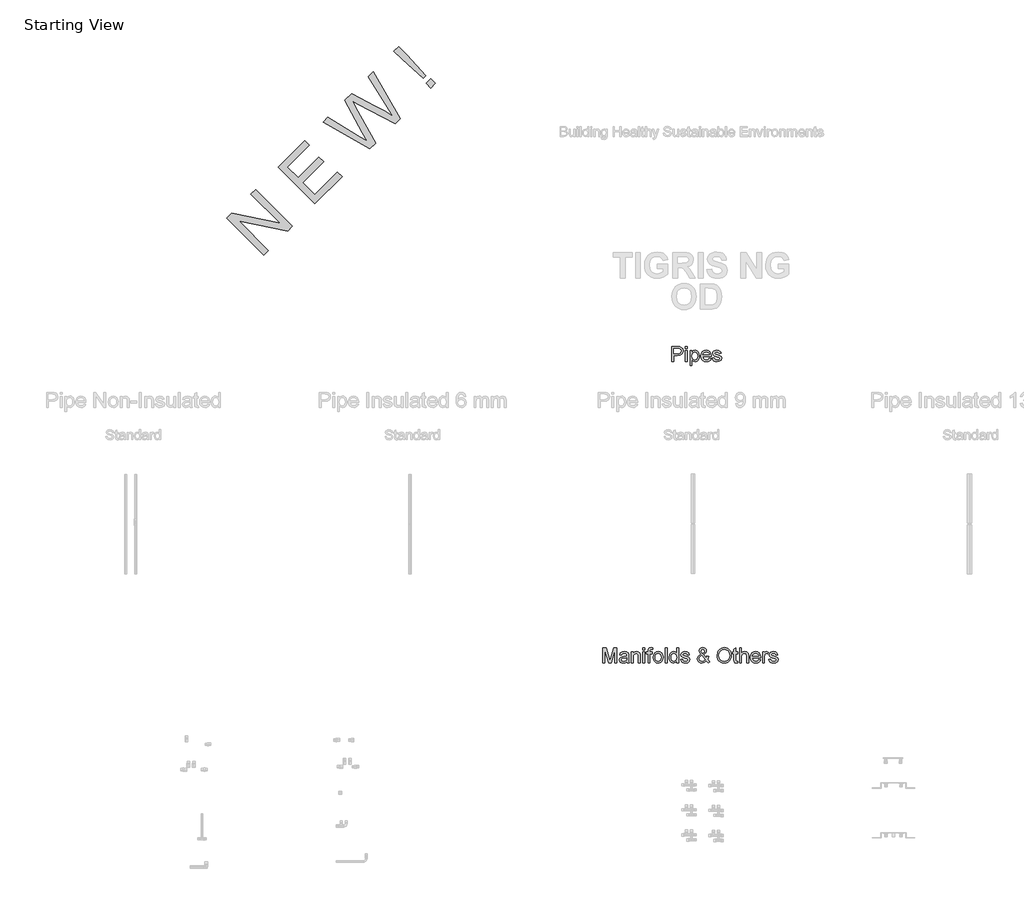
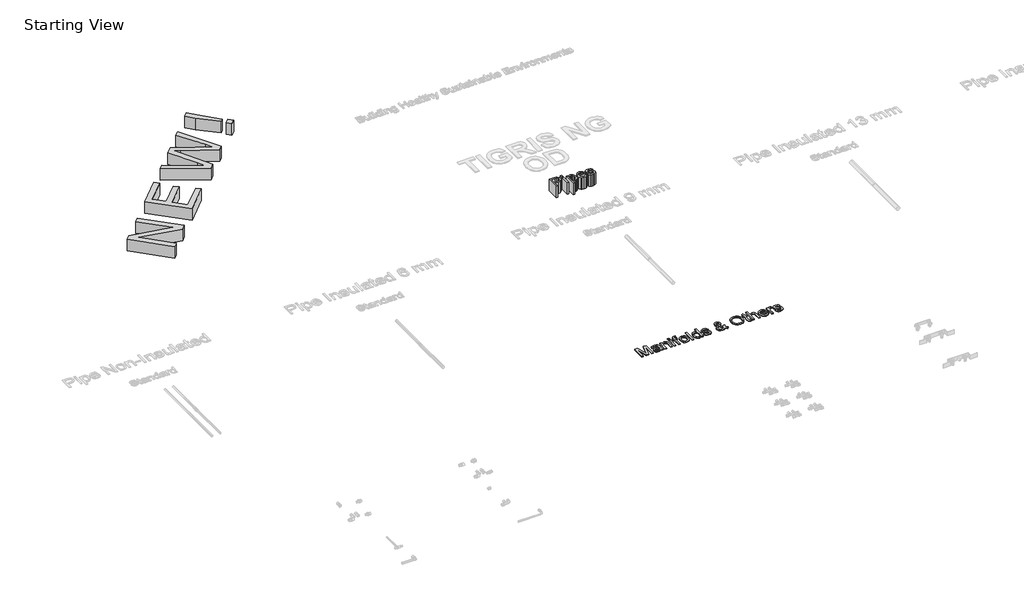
# One storey, part 2 of 3: 3 proxies.
"""IFC4 building model written with IfcOpenShell, lengths in millimetres."""

from ifc_helpers import new_model, si_unit, origin, origin_with_axes, place, context, project, spatial, polyline, outline, extrude, element, save

model = new_model("IFC4")

# Units and contexts
model_context = context("Model", 3, world=origin())
ifc_project = project(units=[si_unit("LENGTHUNIT", "METRE", prefix="MILLI")], contexts=[model_context])

# Site, building, storey
site = spatial("IfcSite", under=ifc_project)
building = spatial("IfcBuilding", under=site)
storey = spatial("IfcBuildingStorey", under=building, Name="Starting View", Elevation=0.0)

# Proxies
placement = place(None, origin())
element("IfcBuildingElementProxy", 1, Name="Rockwell 500", ObjectType="Rockwell 500", at=placement, inside=storey, context=model_context, shape_type="SweptSolid", body=[
    extrude(outline(polyline([(15668.6000123, 12325.8720721), (15298.4542704, 12696.017814), (15347.9757222, 12745.5392658), (15834.605317, 12645.6830537), (15541.3624136, 12938.9259571), (15587.6306313, 12985.1941749), (15957.7763732, 12615.0484329), (15908.2549214, 12565.5269811), (15421.534959, 12665.4735609), (15714.8682301, 12372.1402898), (15668.6000123, 12325.8720721)])), origin_with_axes(), (0.0, 0.0, 1.0), 150.0),
    extrude(outline(polyline([(16183.3339347, 12840.6059944), (15813.1881928, 13210.7517363), (16079.2304448, 13476.7939883), (16125.4986625, 13430.5257706), (15905.7246283, 13210.7517363), (16015.6116454, 13100.8647192), (16223.8186252, 13309.071699), (16270.086843, 13262.8034813), (16061.8798631, 13054.5965015), (16183.3339347, 12933.1424299), (16408.8914962, 13158.6999914), (16455.1597139, 13112.4317736), (16183.3339347, 12840.6059944)])), origin_with_axes(), (0.0, 0.0, 1.0), 150.0),
    extrude(outline(polyline([(16735.3896811, 13392.6617409), (16264.3033157, 13661.8668593), (16312.0174153, 13709.5809588), (16613.8452419, 13524.8695583), (16707.0142507, 13467.8475947), (16659.9327245, 13553.6064592), (16481.3663216, 13878.9298652), (16550.1360749, 13947.6996185), (16786.0859119, 13818.3835646), (16876.7020356, 13773.4482692), (16961.4894483, 13722.3227922), (16906.0941017, 13812.7807726), (16719.7560841, 14117.3196277), (16767.4701837, 14165.0337272), (17036.5849345, 13693.8569942), (16987.1538503, 13644.42591), (16612.8511982, 13841.2465707), (16560.618718, 13868.7183249), (16594.687308, 13806.8165102), (16791.2368658, 13448.5089255), (16735.3896811, 13392.6617409)])), origin_with_axes(), (0.0, 0.0, 1.0), 150.0),
    extrude(outline(polyline([(17270.6370516, 14101.4149278), (17059.2672053, 14289.6506652), (16975.6771635, 14373.2407071), (17021.9453812, 14419.5089248), (17105.535423, 14335.918883), (17293.7711605, 14124.5490367), (17270.6370516, 14101.4149278)])), origin_with_axes(), (0.0, 0.0, 1.0), 150.0),
    extrude(outline(polyline([(17345.8229054, 14003.0949651), (17299.5546877, 14049.3631829), (17345.8229054, 14095.6314006), (17392.0911231, 14049.3631829), (17345.8229054, 14003.0949651)])), origin_with_axes(), (0.0, 0.0, 1.0), 150.0),
])
element("IfcBuildingElementProxy", 2, Name="Arial 150", ObjectType="Arial 150", at=placement, inside=storey, context=model_context, shape_type="SweptSolid", body=[
    extrude(outline(polyline([(19763.0187267, 11257.8392277), (19763.0187267, 11408.5236929), (19818.8632136, 11408.5236929), (19841.3775917, 11407.0889531), (19859.6797209, 11400.0440129), (19871.5439153, 11385.4758859), (19876.0320756, 11364.9296765), (19873.0016477, 11347.1701732), (19863.9103639, 11332.3721199), (19846.9096172, 11322.3841238), (19820.1508006, 11319.0547917), (19781.8542849, 11319.0547917), (19781.8542849, 11257.8392277), (19763.0187267, 11257.8392277)]), holes=[polyline([(19781.8542849, 11337.8903498), (19821.2544465, 11337.8903498), (19837.9562891, 11339.6193952), (19848.992749, 11344.8065314), (19855.1455754, 11353.1298615), (19857.1965175, 11364.2674889), (19852.3588692, 11379.8656855), (19839.6485463, 11388.4005478), (19820.8129882, 11389.6881348), (19781.8542849, 11389.6881348), (19781.8542849, 11337.8903498)])]), origin_with_axes(), (0.0, 0.0, 1.0), 150.0),
    extrude(outline(polyline([(19899.5765233, 11257.8392277), (19899.5765233, 11368.4981318), (19918.4120815, 11368.4981318), (19918.4120815, 11257.8392277), (19899.5765233, 11257.8392277)])), origin_with_axes(), (0.0, 0.0, 1.0), 150.0),
    extrude(outline(polyline([(19899.5765233, 11389.6881348), (19899.5765233, 11408.5236929), (19918.4120815, 11408.5236929), (19918.4120815, 11389.6881348), (19899.5765233, 11389.6881348)])), origin_with_axes(), (0.0, 0.0, 1.0), 150.0),
    extrude(outline(polyline([(19946.6654187, 11215.4592219), (19946.6654187, 11368.4981318), (19965.5009769, 11368.4981318), (19965.5009769, 11350.0304557), (19978.5239995, 11365.6470464), (19996.1087589, 11370.8525766), (20008.8466729, 11369.0315607), (20019.9843003, 11363.5685131), (20029.0525915, 11354.7945275), (20035.5824969, 11343.0406978), (20040.8432095, 11314.0148084), (20039.3578859, 11297.9061755), (20034.9019152, 11283.4989969), (20027.6178517, 11271.5244379), (20017.6482497, 11262.7136641), (20006.0369742, 11257.2920032), (19993.8278905, 11255.4847829), (19977.4387476, 11260.3224312), (19965.5009769, 11272.5545075), (19965.5009769, 11215.4592219), (19946.6654187, 11215.4592219)]), holes=[polyline([(19965.5009769, 11312.285763), (19967.5381234, 11295.3999794), (19973.649563, 11283.5909674), (19982.6672705, 11276.6379977), (19993.4232203, 11274.3203411), (20004.3539141, 11276.7207711), (20013.6015477, 11283.9220612), (20019.9061254, 11296.1633345), (20022.0076513, 11313.6837146), (20019.9567092, 11330.4775276), (20013.8038828, 11342.4520866), (20004.799971, 11349.6257855), (19994.1957725, 11352.0170185), (19983.5501872, 11349.4740342), (19974.201386, 11341.8450813), (19967.6760792, 11329.3692831), (19965.5009769, 11312.285763)])]), origin_with_axes(), (0.0, 0.0, 1.0), 150.0),
    extrude(outline(polyline([(20139.5091606, 11290.8014545), (20157.9768367, 11288.4470097), (20151.3227711, 11274.5318732), (20140.7047771, 11264.1300098), (20126.3619778, 11257.6460897), (20108.5334966, 11255.4847829), (20086.4329857, 11259.2141867), (20069.4276405, 11270.4023978), (20058.5843187, 11288.3228495), (20054.9698781, 11312.2489748), (20058.6211069, 11336.9798419), (20069.5747933, 11355.4751092), (20086.3502123, 11367.0082098), (20107.4666388, 11370.8525766), (20127.9254763, 11367.0174068), (20144.2732324, 11355.5118974), (20154.992394, 11337.0534183), (20158.5654479, 11312.3593394), (20158.4550833, 11307.2825679), (20073.8054362, 11307.2825679), (20077.0657904, 11293.1834904), (20084.639561, 11282.8184152), (20095.5702548, 11276.4448596), (20108.9013786, 11274.3203411), (20127.3690547, 11278.2566784), (20139.5091606, 11290.8014545)]), holes=[polyline([(20073.8054362, 11326.118126), (20139.7298898, 11326.118126), (20137.182307, 11336.069334), (20132.1883089, 11343.1878506), (20121.2070313, 11349.8097265), (20107.3930624, 11352.0170185), (20094.696535, 11350.2557834), (20084.1981026, 11344.9720783), (20076.9002435, 11336.7361201), (20073.8054362, 11326.118126)])]), origin_with_axes(), (0.0, 0.0, 1.0), 150.0),
    extrude(outline(polyline([(20170.3376718, 11290.8014545), (20189.1732299, 11293.1558992), (20192.143877, 11285.0992835), (20197.8920332, 11279.1763834), (20217.8680255, 11274.3203411), (20237.0714657, 11278.7717132), (20243.3254596, 11289.2195619), (20241.7527641, 11294.0204219), (20237.0346775, 11297.6808478), (20217.6472963, 11303.0519249), (20189.2835945, 11312.2673689), (20176.9043654, 11323.0279172), (20172.6921165, 11338.2214436), (20176.0766309, 11352.2561418), (20185.310469, 11362.9799019), (20197.2850279, 11368.5533141), (20213.4902298, 11370.8525766), (20236.4092781, 11367.1553626), (20250.9774051, 11357.1489723), (20257.4521282, 11340.2447946), (20238.6165701, 11337.8903498), (20231.5348417, 11348.2830162), (20214.9617578, 11352.0170185), (20196.93554, 11348.4485631), (20191.5276747, 11340.13443), (20193.7717549, 11334.6529883), (20200.798301, 11330.4959217), (20217.021897, 11326.486008), (20244.6682289, 11317.6200519), (20257.5073105, 11307.5768734), (20262.1610178, 11291.2061247), (20256.6979701, 11273.1799069), (20240.9342266, 11260.101702), (20217.6105081, 11255.4847829), (20198.6186001, 11257.710469), (20184.758646, 11264.3875272), (20175.5064138, 11275.4423812), (20170.3376718, 11290.8014545)])), origin_with_axes(), (0.0, 0.0, 1.0), 150.0),
])
element("IfcBuildingElementProxy", 3, Name="Arial 150", ObjectType="Arial 150", at=placement, inside=storey, context=model_context, shape_type="SweptSolid", body=[
    extrude(outline(polyline([(19072.8802052, 8233.121998), (19072.8802052, 8383.8064633), (19105.290609, 8383.8064633), (19136.1191202, 8277.5989313), (19142.3363259, 8255.415647), (19149.0685664, 8279.4383412), (19179.3820428, 8383.8064633), (19211.7924466, 8383.8064633), (19211.7924466, 8233.121998), (19192.9568884, 8233.121998), (19192.9568884, 8364.9709051), (19155.1018311, 8233.121998), (19129.5708207, 8233.121998), (19091.7157634, 8364.9709051), (19091.7157634, 8233.121998), (19072.8802052, 8233.121998)])), origin_with_axes(), (0.0, 0.0, 1.0), 10.0),
    extrude(outline(polyline([(19313.0335717, 8247.2486667), (19294.7682306, 8234.4831614), (19274.5899032, 8230.7675533), (19258.8491523, 8233.0024364), (19247.2378768, 8239.7070858), (19240.0779735, 8249.88822), (19237.6913391, 8262.5525577), (19241.2965826, 8277.4517785), (19250.769544, 8288.2675091), (19263.9581135, 8294.4479266), (19280.2552859, 8297.280618), (19312.9232071, 8303.7553411), (19313.0335717, 8307.9491959), (19311.7367876, 8316.3552995), (19307.8464355, 8321.8551353), (19299.1460264, 8325.9386254), (19287.0243146, 8327.2997888), (19267.9680273, 8323.6761512), (19258.881342, 8310.8186754), (19240.0457838, 8313.1731202), (19248.19437, 8331.56722), (19264.601907, 8342.3461624), (19289.4523358, 8346.135347), (19312.2794136, 8342.7876208), (19325.1736775, 8334.3815172), (19330.9494248, 8321.5976179), (19331.8691298, 8305.1165045), (19331.8691298, 8281.6824214), (19332.825623, 8248.9593179), (19336.5780194, 8233.121998), (19317.7424612, 8233.121998), (19313.0335717, 8247.2486667)]), holes=[polyline([(19313.0335717, 8284.919783), (19282.6465189, 8279.1440356), (19266.441317, 8276.0906151), (19259.1020712, 8271.1242082), (19256.5268972, 8263.8769328), (19262.1370976, 8253.6866016), (19278.5998169, 8249.6031114), (19297.6561043, 8254.1096659), (19309.9433629, 8265.017367), (19312.9232071, 8279.585494), (19313.0335717, 8284.919783)])]), origin_with_axes(), (0.0, 0.0, 1.0), 10.0),
    extrude(outline(polyline([(19357.7680223, 8233.121998), (19357.7680223, 8343.7809022), (19376.6035804, 8343.7809022), (19376.6035804, 8328.3298584), (19391.0061606, 8341.6839748), (19410.6694532, 8346.135347), (19428.4565477, 8342.5484975), (19440.5966535, 8333.1307184), (19446.2436421, 8319.2799613), (19447.2369235, 8301.0698026), (19447.2369235, 8233.121998), (19428.4013654, 8233.121998), (19428.4013654, 8298.5314168), (19426.2308616, 8315.1964712), (19418.560522, 8324.007245), (19405.6294699, 8327.2997888), (19394.5976085, 8325.4511818), (19385.193625, 8319.9053607), (19378.7510916, 8309.1907976), (19376.6035804, 8291.8359645), (19376.6035804, 8233.121998), (19357.7680223, 8233.121998)])), origin_with_axes(), (0.0, 0.0, 1.0), 10.0),
    extrude(outline(polyline([(19473.135816, 8233.121998), (19473.135816, 8343.7809022), (19491.9713741, 8343.7809022), (19491.9713741, 8233.121998), (19473.135816, 8233.121998)])), origin_with_axes(), (0.0, 0.0, 1.0), 10.0),
    extrude(outline(polyline([(19473.135816, 8364.9709051), (19473.135816, 8383.8064633), (19491.9713741, 8383.8064633), (19491.9713741, 8364.9709051), (19473.135816, 8364.9709051)])), origin_with_axes(), (0.0, 0.0, 1.0), 10.0),
    extrude(outline(polyline([(19524.9336009, 8233.121998), (19524.9336009, 8324.945344), (19508.4524875, 8324.945344), (19508.4524875, 8343.7809022), (19524.9336009, 8343.7809022), (19524.9336009, 8354.9277267), (19526.9201637, 8370.6362878), (19536.5586719, 8381.8566887), (19555.5413829, 8386.160908), (19572.7214721, 8384.1007689), (19569.9623571, 8366.4424331), (19559.1098382, 8367.3253499), (19547.2456439, 8364.1983529), (19543.769159, 8352.5364937), (19543.769159, 8343.7809022), (19564.959162, 8343.7809022), (19564.959162, 8324.945344), (19543.769159, 8324.945344), (19543.769159, 8233.121998), (19524.9336009, 8233.121998)])), origin_with_axes(), (0.0, 0.0, 1.0), 10.0),
    extrude(outline(polyline([(19576.7313858, 8288.4514501), (19580.8056789, 8315.1320918), (19593.0285582, 8333.8848765), (19608.1301141, 8343.0727294), (19626.2115142, 8346.135347), (19645.998967, 8342.4059432), (19661.8040972, 8331.2177321), (19672.1645739, 8313.4536302), (19675.6180661, 8289.9965545), (19674.0913558, 8270.9678583), (19669.511225, 8256.4825047), (19662.0110308, 8245.6345844), (19651.7241305, 8237.5181879), (19639.5058498, 8232.4552119), (19626.2115142, 8230.7675533), (19606.1849381, 8234.4831614), (19590.3982019, 8245.6299859), (19580.1480898, 8263.7665682), (19576.7313858, 8288.4514501)]), holes=[polyline([(19595.566944, 8288.4882383), (19597.7466448, 8271.4415064), (19604.2857473, 8259.296802), (19614.1265906, 8252.0265341), (19626.2115142, 8249.6031114), (19638.2412554, 8252.0403297), (19648.0637047, 8259.3519843), (19654.6028071, 8271.657637), (19656.782508, 8289.0768495), (19654.5890116, 8305.6269408), (19648.0085224, 8317.6060982), (19638.1722775, 8324.8763662), (19626.2115142, 8327.2997888), (19614.1265906, 8324.8855632), (19604.2857473, 8317.6428864), (19597.7466448, 8305.5257732), (19595.566944, 8288.4882383)])]), origin_with_axes(), (0.0, 0.0, 1.0), 10.0),
    extrude(outline(polyline([(19696.808069, 8233.121998), (19696.808069, 8383.8064633), (19715.6436272, 8383.8064633), (19715.6436272, 8233.121998), (19696.808069, 8233.121998)])), origin_with_axes(), (0.0, 0.0, 1.0), 10.0),
    extrude(outline(polyline([(19812.1758627, 8233.121998), (19812.1758627, 8250.8906984), (19799.7138601, 8235.7983396), (19782.4877857, 8230.7675533), (19770.3108917, 8232.5885692), (19759.1640672, 8238.0516168), (19749.727894, 8246.7750186), (19742.6829538, 8258.377097), (19738.295961, 8272.3888025), (19736.8336301, 8288.3410855), (19742.2231013, 8318.3234681), (19748.9553419, 8330.2152536), (19758.3731209, 8338.9616481), (19769.7636672, 8344.3419222), (19782.4142093, 8346.135347), (19799.7782395, 8341.0033931), (19812.1758627, 8327.6676708), (19812.1758627, 8383.8064633), (19831.0114209, 8383.8064633), (19831.0114209, 8233.121998), (19812.1758627, 8233.121998)]), holes=[polyline([(19755.6691883, 8288.4146619), (19757.7937068, 8271.377127), (19764.1672624, 8259.2600138), (19773.4286916, 8252.017337), (19784.2168311, 8249.6031114), (19795.0003721, 8251.9069724), (19804.0272765, 8258.8185554), (19810.1387162, 8270.4666191), (19812.1758627, 8286.9799221), (19810.101928, 8305.0337311), (19803.8801237, 8317.5509159), (19794.623293, 8324.8625706), (19783.4442789, 8327.2997888), (19772.5457748, 8324.9591396), (19763.6154394, 8317.937192), (19757.655751, 8305.8752611), (19755.6691883, 8288.4146619)])]), origin_with_axes(), (0.0, 0.0, 1.0), 10.0),
    extrude(outline(polyline([(19852.2014238, 8266.0842248), (19871.036982, 8268.4386696), (19874.0076291, 8260.3820539), (19879.7557852, 8254.4591538), (19899.7317776, 8249.6031114), (19918.9352177, 8254.0544836), (19925.1892116, 8264.5023322), (19923.6165161, 8269.3031923), (19918.8984295, 8272.9636181), (19899.5110484, 8278.3346953), (19871.1473466, 8287.5501392), (19858.7681174, 8298.3106876), (19854.5558686, 8313.504214), (19857.9403829, 8327.5389121), (19867.174221, 8338.2626723), (19879.14878, 8343.8360845), (19895.3539818, 8346.135347), (19918.2730301, 8342.4381329), (19932.8411571, 8332.4317426), (19939.3158803, 8315.527565), (19920.4803221, 8313.1731202), (19913.3985937, 8323.5657866), (19896.8255098, 8327.2997888), (19878.7992921, 8323.7313335), (19873.3914267, 8315.4172004), (19875.6355069, 8309.9357586), (19882.662053, 8305.7786921), (19898.885649, 8301.7687783), (19926.5319809, 8292.9028223), (19939.3710626, 8282.8596438), (19944.0247698, 8266.488895), (19938.5617222, 8248.4626772), (19922.7979787, 8235.3844723), (19899.4742602, 8230.7675533), (19880.4823522, 8232.9932394), (19866.622398, 8239.6702976), (19857.3701658, 8250.7251515), (19852.2014238, 8266.0842248)])), origin_with_axes(), (0.0, 0.0, 1.0), 10.0),
    extrude(outline(polyline([(20110.4913726, 8251.736827), (20090.5153803, 8236.0098717), (20067.1548736, 8230.7675533), (20046.3695409, 8234.6487083), (20030.3666741, 8246.2921735), (20022.1169203, 8259.6922752), (20019.3670024, 8274.5822989), (20021.5788929, 8287.7800655), (20028.2145644, 8299.6350628), (20039.2464257, 8310.1380937), (20054.6468858, 8319.2799613), (20041.4951044, 8338.3362487), (20038.2025606, 8352.4629173), (20040.7961286, 8365.1824373), (20048.5768328, 8376.1177296), (20060.2846773, 8383.6501134), (20074.6596663, 8386.160908), (20088.3356795, 8383.760478), (20099.2709718, 8376.559188), (20106.4446707, 8365.9917777), (20108.8359036, 8353.4929869), (20107.0654715, 8342.999153), (20101.7541752, 8333.2962653), (20080.50899, 8316.263329), (20107.7690459, 8282.3078208), (20115.8992379, 8303.1667299), (20134.7347961, 8299.0832398), (20121.4174679, 8268.0707876), (20144.1525752, 8245.2621039), (20130.0259066, 8230.7675533), (20110.4913726, 8251.736827)]), holes=[polyline([(20070.9808463, 8328.1459174), (20086.4686783, 8339.8261708), (20090.0003455, 8350.9178129), (20085.3466382, 8362.745219), (20073.7031731, 8367.3253499), (20061.8021906, 8362.7820072), (20057.0381187, 8351.6903651), (20058.6567995, 8344.7925777), (20063.54963, 8337.1222381), (20070.9808463, 8328.1459174)]), polyline([(20097.8730202, 8265.3116726), (20064.2486058, 8307.2870083), (20043.5552436, 8291.5048707), (20038.2025606, 8277.0838965), (20040.0327735, 8268.1995463), (20045.5234123, 8258.9841023), (20054.3709743, 8251.9483592), (20066.2719568, 8249.6031114), (20083.5808047, 8253.9809072), (20097.8730202, 8265.3116726)])]), origin_with_axes(), (0.0, 0.0, 1.0), 10.0),
    extrude(outline(polyline([(20217.140363, 8306.4776679), (20222.1619523, 8339.7985796), (20228.4389388, 8353.4171112), (20237.22672, 8365.0076933), (20260.2285417, 8380.8726044), (20289.0612931, 8386.160908), (20308.8257533, 8383.6777046), (20326.5484684, 8376.2280942), (20341.2637482, 8364.3363087), (20352.0059025, 8348.5265799), (20358.5725961, 8329.5622631), (20360.7614939, 8308.2067133), (20358.4576329, 8286.5660549), (20351.54605, 8267.3350236), (20340.4084226, 8251.4977037), (20325.4264283, 8240.0381796), (20307.8554645, 8233.0852098), (20288.9509285, 8230.7675533), (20268.8829656, 8233.3289317), (20251.059083, 8241.0130668), (20236.3805914, 8253.1255815), (20225.7488017, 8268.9720985), (20219.2924727, 8287.2052499), (20217.140363, 8306.4776679)]), holes=[polyline([(20235.9759212, 8306.2937269), (20239.7421131, 8282.721688), (20251.0406889, 8264.7598496), (20268.0230415, 8253.392296), (20288.8405639, 8249.6031114), (20309.9615889, 8253.4290842), (20326.9715327, 8264.9070024), (20338.187335, 8283.4206638), (20341.9259358, 8308.3538661), (20340.3256491, 8325.0281175), (20335.5247891, 8339.4398947), (20327.6475158, 8351.2259141), (20316.8179896, 8360.0228923), (20303.7535803, 8365.4997355), (20289.1716577, 8367.3253499), (20268.9105568, 8363.8074783), (20251.6844824, 8353.2538636), (20239.9030615, 8334.4780862), (20235.9759212, 8306.2937269)])]), origin_with_axes(), (0.0, 0.0, 1.0), 10.0),
    extrude(outline(polyline([(20424.3315027, 8248.8305592), (20426.6859475, 8232.5701751), (20412.5960671, 8230.7675533), (20396.8139295, 8233.8945502), (20388.9412548, 8242.0983187), (20386.6603864, 8263.4722627), (20386.6603864, 8324.945344), (20372.5337178, 8324.945344), (20372.5337178, 8343.7809022), (20386.6603864, 8343.7809022), (20386.6603864, 8370.673076), (20405.4959446, 8381.7463241), (20405.4959446, 8343.7809022), (20424.3315027, 8343.7809022), (20424.3315027, 8324.945344), (20405.4959446, 8324.945344), (20405.4959446, 8264.0240856), (20406.4892259, 8254.312001), (20409.7081934, 8250.8723043), (20416.1277342, 8249.6031114), (20424.3315027, 8248.8305592)])), origin_with_axes(), (0.0, 0.0, 1.0), 10.0),
    extrude(outline(polyline([(20443.1670609, 8233.121998), (20443.1670609, 8383.8064633), (20462.002619, 8383.8064633), (20462.002619, 8328.4034348), (20476.6903077, 8341.7023689), (20494.7809048, 8346.135347), (20515.9341195, 8341.2976987), (20528.7732011, 8327.9251882), (20532.6359621, 8303.1667299), (20532.6359621, 8233.121998), (20513.8004039, 8233.121998), (20513.8004039, 8301.2169554), (20512.3012848, 8313.0075733), (20507.8039274, 8321.0825831), (20500.5566521, 8325.7454874), (20490.8077792, 8327.2997888), (20475.3751295, 8323.1059341), (20465.0744337, 8311.7383804), (20462.002619, 8291.9095409), (20462.002619, 8233.121998), (20443.1670609, 8233.121998)])), origin_with_axes(), (0.0, 0.0, 1.0), 10.0),
    extrude(outline(polyline([(20636.0108027, 8266.0842248), (20654.4784789, 8263.72978), (20647.8244133, 8249.8146436), (20637.2064192, 8239.4127802), (20622.8636199, 8232.92886), (20605.0351387, 8230.7675533), (20582.9346279, 8234.496957), (20565.9292826, 8245.6851682), (20555.0859608, 8263.6056199), (20551.4715202, 8287.5317451), (20555.122749, 8312.2626123), (20566.0764354, 8330.7578796), (20582.8518544, 8342.2909801), (20603.9682809, 8346.135347), (20624.4271184, 8342.3001772), (20640.7748746, 8330.7946678), (20651.4940362, 8312.3361887), (20655.0670901, 8287.6421097), (20654.9567255, 8282.5653382), (20570.3070784, 8282.5653382), (20573.5674326, 8268.4662607), (20581.1412031, 8258.1011855), (20592.0718969, 8251.72763), (20605.4030207, 8249.6031114), (20623.8706969, 8253.5394488), (20636.0108027, 8266.0842248)]), holes=[polyline([(20570.3070784, 8301.4008964), (20636.2315319, 8301.4008964), (20633.6839491, 8311.3521043), (20628.689951, 8318.4706209), (20617.7086735, 8325.0924968), (20603.8947046, 8327.2997888), (20591.1981772, 8325.5385538), (20580.6997448, 8320.2548486), (20573.4018857, 8312.0188904), (20570.3070784, 8301.4008964)])]), origin_with_axes(), (0.0, 0.0, 1.0), 10.0),
    extrude(outline(polyline([(20673.9026482, 8233.121998), (20673.9026482, 8343.7809022), (20690.3837616, 8343.7809022), (20690.3837616, 8327.4101534), (20702.0824091, 8342.4933152), (20713.8546329, 8346.135347), (20732.7637675, 8340.3228114), (20726.4729853, 8323.4370279), (20713.2292335, 8327.2997888), (20702.5790498, 8323.5841807), (20695.7916269, 8313.2834848), (20692.7382064, 8291.2841415), (20692.7382064, 8233.121998), (20673.9026482, 8233.121998)])), origin_with_axes(), (0.0, 0.0, 1.0), 10.0),
    extrude(outline(polyline([(20737.472657, 8266.0842248), (20756.3082152, 8268.4386696), (20759.2788623, 8260.3820539), (20765.0270184, 8254.4591538), (20785.0030108, 8249.6031114), (20804.2064509, 8254.0544836), (20810.4604448, 8264.5023322), (20808.8877493, 8269.3031923), (20804.1696627, 8272.9636181), (20784.7822816, 8278.3346953), (20756.4185798, 8287.5501392), (20744.0393506, 8298.3106876), (20739.8271018, 8313.504214), (20743.2116161, 8327.5389121), (20752.4454542, 8338.2626723), (20764.4200131, 8343.8360845), (20780.625215, 8346.135347), (20803.5442633, 8342.4381329), (20818.1123903, 8332.4317426), (20824.5871135, 8315.527565), (20805.7515553, 8313.1731202), (20798.6698269, 8323.5657866), (20782.096743, 8327.2997888), (20764.0705253, 8323.7313335), (20758.6626599, 8315.4172004), (20760.9067401, 8309.9357586), (20767.9332862, 8305.7786921), (20784.1568822, 8301.7687783), (20811.8032141, 8292.9028223), (20824.6422958, 8282.8596438), (20829.296003, 8266.488895), (20823.8329554, 8248.4626772), (20808.0692119, 8235.3844723), (20784.7454934, 8230.7675533), (20765.7535854, 8232.9932394), (20751.8936312, 8239.6702976), (20742.641399, 8250.7251515), (20737.472657, 8266.0842248)])), origin_with_axes(), (0.0, 0.0, 1.0), 10.0),
])

save(model, "model.ifc")
